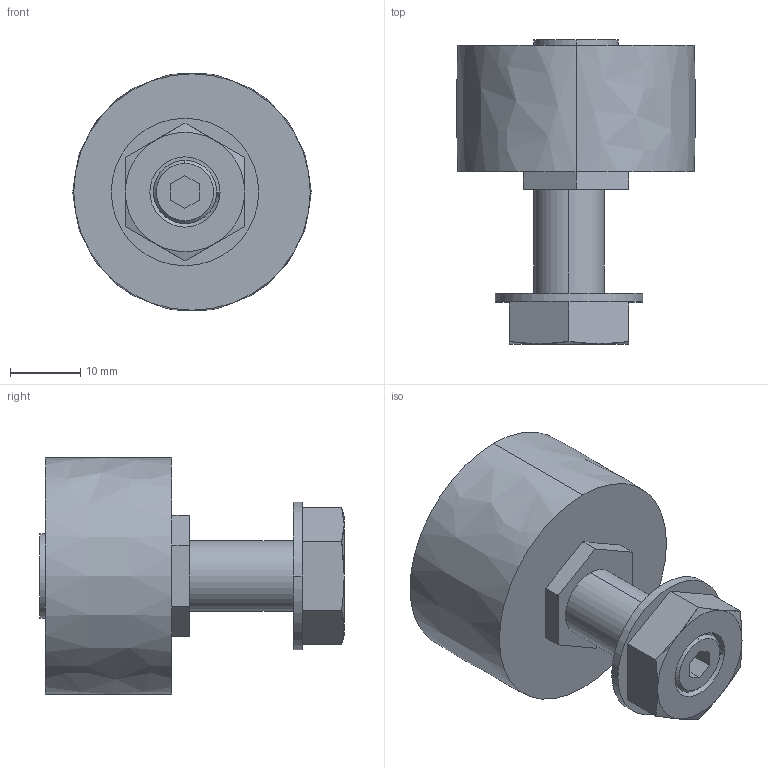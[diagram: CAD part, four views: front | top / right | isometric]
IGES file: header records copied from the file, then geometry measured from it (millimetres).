
Start section: 3D InterOp IGES (v. 2019 1.0.2), Spatial Corp. Copyright (c) 1999-2017.
Global section: file name: LR 34 E.igs; native system: Spatial Corp.; preprocessor: 3D InterOp GENERIC/IGES 3.0; author: Noname; organization: Noname; date: 20220628.172232; units: millimetre
Bounding box: 33.96 x 43.35 x 33.68 mm (x, y, z)
Surface area: 5366.5 mm2 (no closed solid volume)
Topology: 0 solids, 0 shells, 52 faces, 248 edges, 248 vertices
Faces by surface type: extrusion 34, revolution 16, bspline 2
